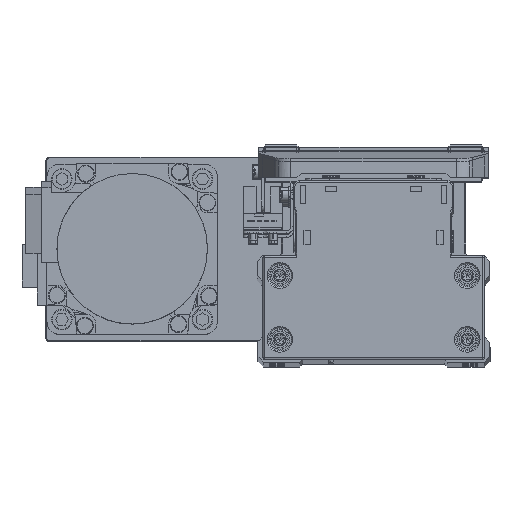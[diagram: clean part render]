
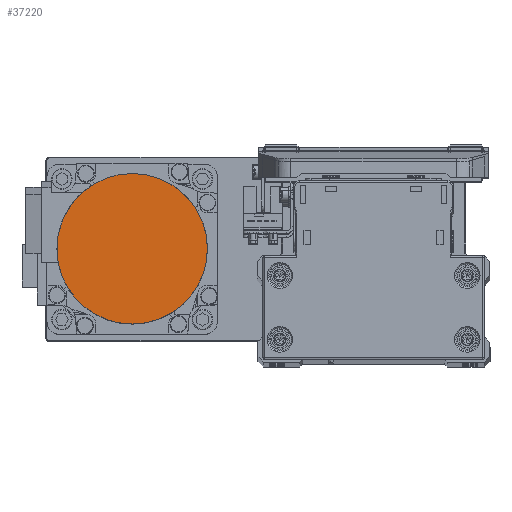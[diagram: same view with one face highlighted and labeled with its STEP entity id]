
A CAD part, top view. The second image highlights one B-rep face of the part: STEP entity #37220.
In plain terms, the highlighted planar face has unit normal (0, 0, 1) as drawn and (0, 0, -1) by its records, which use the part's own axes.
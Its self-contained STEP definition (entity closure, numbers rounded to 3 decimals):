
#2069 = EDGE_LOOP ( 'NONE', ( #25313, #15905 ) ) ;
#2161 = AXIS2_PLACEMENT_3D ( 'NONE', #5249, #18013, #30758 ) ;
#3059 = EDGE_CURVE ( 'NONE', #16071, #14174, #22908, .T. ) ;
#4663 = DIRECTION ( 'NONE',  ( -1., 0., 0. ) ) ;
#4857 = AXIS2_PLACEMENT_3D ( 'NONE', #20567, #33312, #4663 ) ;
#5249 = CARTESIAN_POINT ( 'NONE',  ( 0., 0., -109.7 ) ) ;
#6296 = DIRECTION ( 'NONE',  ( 1., 0., 0. ) ) ;
#9431 = PLANE ( 'NONE',  #22646 ) ;
#14174 = VERTEX_POINT ( 'NONE', #20201 ) ;
#15905 = ORIENTED_EDGE ( 'NONE', *, *, #25481, .F. ) ;
#16015 = CARTESIAN_POINT ( 'NONE',  ( -26.5, 0., -109.7 ) ) ;
#16071 = VERTEX_POINT ( 'NONE', #16015 ) ;
#18013 = DIRECTION ( 'NONE',  ( 0., 0., 1. ) ) ;
#20189 = CIRCLE ( 'NONE', #2161, 26.5 ) ;
#20201 = CARTESIAN_POINT ( 'NONE',  ( 26.5, 0., -109.7 ) ) ;
#20567 = CARTESIAN_POINT ( 'NONE',  ( 0., 0., -109.7 ) ) ;
#22185 = CARTESIAN_POINT ( 'NONE',  ( 0., 0., -109.7 ) ) ;
#22646 = AXIS2_PLACEMENT_3D ( 'NONE', #22185, #34939, #6296 ) ;
#22908 = CIRCLE ( 'NONE', #4857, 26.5 ) ;
#25313 = ORIENTED_EDGE ( 'NONE', *, *, #3059, .F. ) ;
#25481 = EDGE_CURVE ( 'NONE', #14174, #16071, #20189, .T. ) ;
#30758 = DIRECTION ( 'NONE',  ( 1., 0., 0. ) ) ;
#33312 = DIRECTION ( 'NONE',  ( 0., 0., 1. ) ) ;
#34939 = DIRECTION ( 'NONE',  ( 0., 0., 1. ) ) ;
#37220 = ADVANCED_FACE ( 'NONE', ( #38067 ), #9431, .F. ) ;
#38067 = FACE_OUTER_BOUND ( 'NONE', #2069, .T. ) ;
